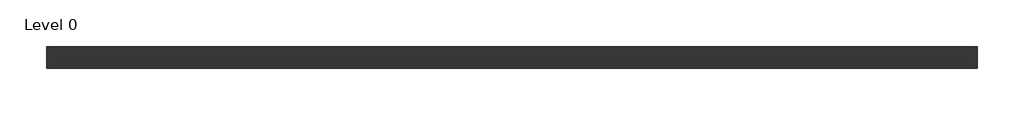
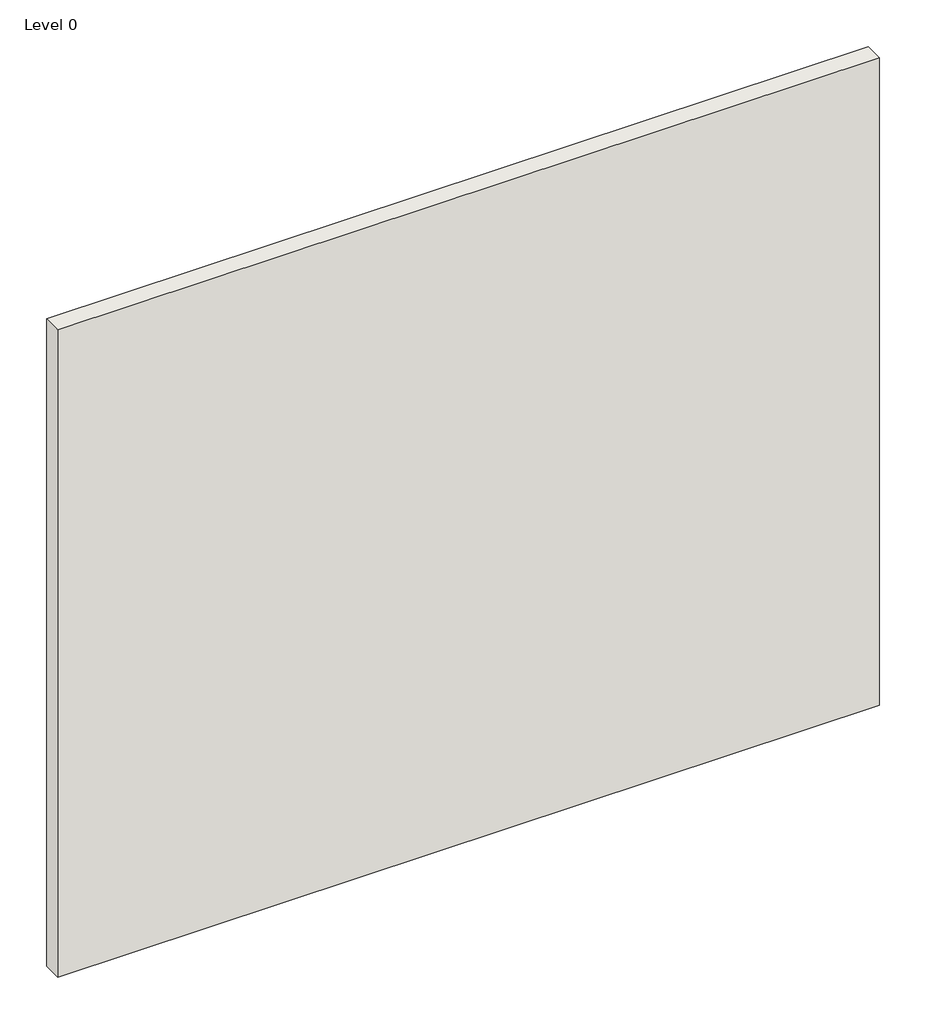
# One storey: 1 wall.
"""IFC4 building model written with IfcOpenShell, lengths in millimetres."""

from ifc_helpers import new_model, si_unit, origin, origin_with_axes, place, context, project, spatial, polyline, outline, extrude, element, save

model = new_model("IFC4")

# Units and contexts
model_context = context("Model", 3, world=origin())
ifc_project = project(units=[si_unit("LENGTHUNIT", "METRE", prefix="MILLI")], contexts=[model_context])

# Site, building, storey
site = spatial("IfcSite", under=ifc_project)
building = spatial("IfcBuilding", under=site)
storey = spatial("IfcBuildingStorey", under=building, Name="Level 0", Elevation=0.0)

# Wall
placement = place(None, origin())
element("IfcWall", 1, ObjectType="G106008 - GypWall CLASSIC", at=placement, inside=storey, context=model_context, shape_type="SweptSolid", body=[
    extrude(outline(polyline([(2116.0807354, 558.7205641), (-883.9192646, 558.7205641), (-883.9192646, 628.7205641), (2116.0807354, 628.7205641), (2116.0807354, 558.7205641)])), origin_with_axes(), (0.0, 0.0, 1.0), 2500.0),
])

save(model, "model.ifc")
